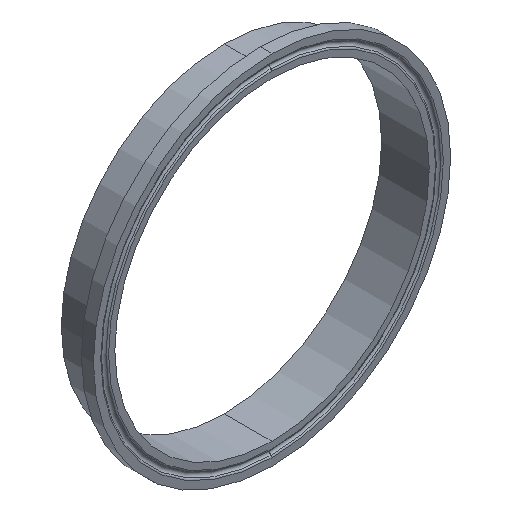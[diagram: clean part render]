
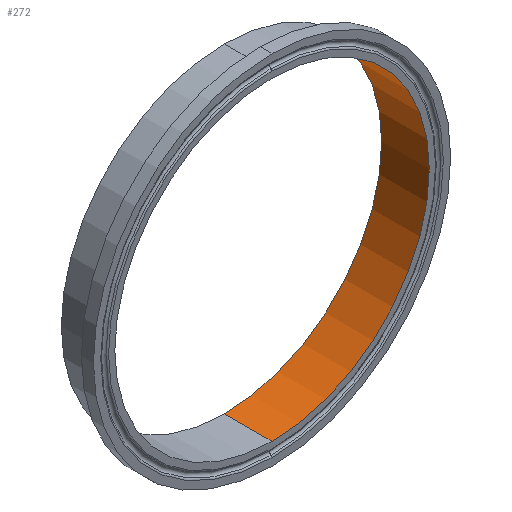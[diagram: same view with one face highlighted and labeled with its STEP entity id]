
A CAD part, isometric view. The second image highlights one B-rep face of the part: STEP entity #272.
In plain terms, the highlighted cylindrical face has radius 73.431 mm (diameter 146.863 mm), a partial arc.
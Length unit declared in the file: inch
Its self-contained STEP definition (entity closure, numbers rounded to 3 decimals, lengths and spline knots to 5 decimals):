
#9 = CARTESIAN_POINT ( 'NONE',  ( 0., 0., 0. ) ) ;
#17 = CARTESIAN_POINT ( 'NONE',  ( 0., 0., 0. ) ) ;
#18 = DIRECTION ( 'NONE',  ( 0., -1., 0. ) ) ;
#34 = LINE ( 'NONE', #132, #129 ) ;
#39 = ORIENTED_EDGE ( 'NONE', *, *, #454, .F. ) ;
#64 = DIRECTION ( 'NONE',  ( 0., 0., -1. ) ) ;
#83 = DIRECTION ( 'NONE',  ( 0., 0., -1. ) ) ;
#100 = CARTESIAN_POINT ( 'NONE',  ( 0., 0.875, 2.891 ) ) ;
#110 = AXIS2_PLACEMENT_3D ( 'NONE', #9, #239, #83 ) ;
#124 = CARTESIAN_POINT ( 'NONE',  ( 0., 0.875, -2.891 ) ) ;
#129 = VECTOR ( 'NONE', #283, 39.37008 ) ;
#132 = CARTESIAN_POINT ( 'NONE',  ( 0., 0., 2.891 ) ) ;
#138 = LINE ( 'NONE', #173, #452 ) ;
#147 = DIRECTION ( 'NONE',  ( 0., -1., 0. ) ) ;
#173 = CARTESIAN_POINT ( 'NONE',  ( 0., 0., -2.891 ) ) ;
#180 = ORIENTED_EDGE ( 'NONE', *, *, #359, .T. ) ;
#209 = ORIENTED_EDGE ( 'NONE', *, *, #483, .T. ) ;
#239 = DIRECTION ( 'NONE',  ( 0., -1., 0. ) ) ;
#264 = EDGE_LOOP ( 'NONE', ( #39, #298, #180, #209 ) ) ;
#272 = ADVANCED_FACE ( 'NONE', ( #277 ), #384, .F. ) ;
#277 = FACE_OUTER_BOUND ( 'NONE', #264, .T. ) ;
#283 = DIRECTION ( 'NONE',  ( 0., -1., 0. ) ) ;
#289 = VERTEX_POINT ( 'NONE', #124 ) ;
#294 = CARTESIAN_POINT ( 'NONE',  ( 0., 0., 2.891 ) ) ;
#298 = ORIENTED_EDGE ( 'NONE', *, *, #492, .F. ) ;
#299 = DIRECTION ( 'NONE',  ( 0., -1., 0. ) ) ;
#308 = VERTEX_POINT ( 'NONE', #450 ) ;
#356 = CIRCLE ( 'NONE', #496, 2.891 ) ;
#359 = EDGE_CURVE ( 'NONE', #289, #308, #138, .T. ) ;
#384 = CYLINDRICAL_SURFACE ( 'NONE', #110, 2.891 ) ;
#387 = CARTESIAN_POINT ( 'NONE',  ( 0., 0.875, 0. ) ) ;
#439 = DIRECTION ( 'NONE',  ( 0., 0., -1. ) ) ;
#450 = CARTESIAN_POINT ( 'NONE',  ( 0., 0., -2.891 ) ) ;
#452 = VECTOR ( 'NONE', #18, 39.37008 ) ;
#454 = EDGE_CURVE ( 'NONE', #531, #526, #34, .T. ) ;
#477 = CIRCLE ( 'NONE', #490, 2.891 ) ;
#483 = EDGE_CURVE ( 'NONE', #308, #526, #356, .T. ) ;
#490 = AXIS2_PLACEMENT_3D ( 'NONE', #387, #147, #439 ) ;
#492 = EDGE_CURVE ( 'NONE', #289, #531, #477, .T. ) ;
#496 = AXIS2_PLACEMENT_3D ( 'NONE', #17, #299, #64 ) ;
#526 = VERTEX_POINT ( 'NONE', #294 ) ;
#531 = VERTEX_POINT ( 'NONE', #100 ) ;
